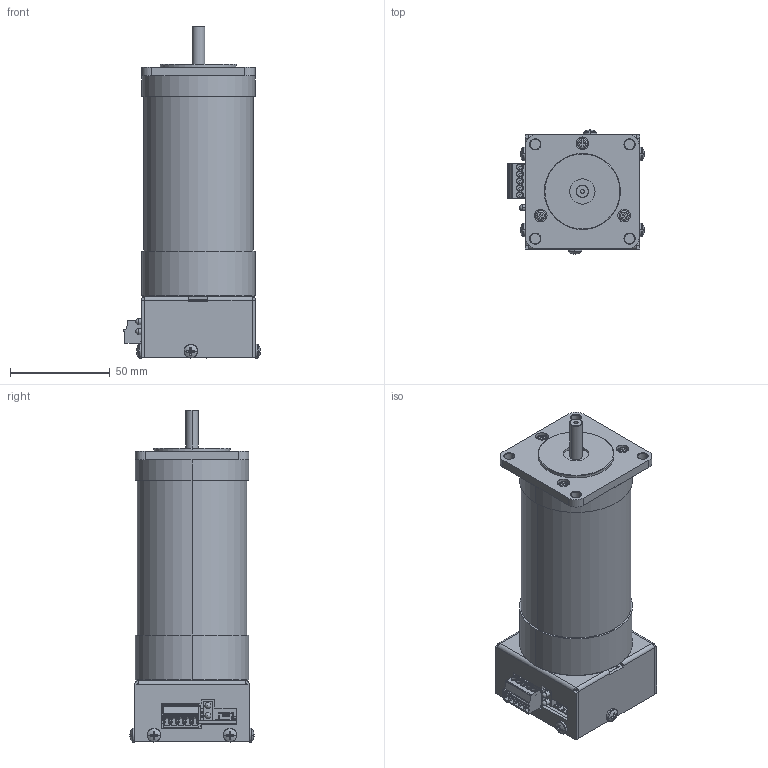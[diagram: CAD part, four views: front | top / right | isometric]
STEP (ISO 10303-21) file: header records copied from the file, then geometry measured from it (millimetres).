
FILE_DESCRIPTION (( 'STEP AP214' ), '1' );
FILE_NAME ('BLWS23MDCUSB5S-24V-4000.STEP', '2016-02-03T00:49:49', ( '' ), ( '' ), 'SwSTEP 2.0', 'SolidWorks 2016', '' );
FILE_SCHEMA (( 'AUTOMOTIVE_DESIGN' ));
Length unit declared in the file: inch
Products named in the file (21): SUB-AA6550-1; CON-UX60SC-MB-5ST80; UX60SC-MB-5ST; LED-0008; 1844249; TRS-IRFU3607PBF with 90degree bent UP legs; LED-T-1-Series_LED-T-1-GRN; LED-LTM Series_LED-LTM150; RES-3W-JAPSTYLE.25; CON-B5B-EH-A; CAP-0223; AA6550PCB; 55pan cross head_ai_CR-PHMS 0.138-32x0.25x0.25-S; Heat Sink, BLWS23MDCUSB Series; BLWR23MDAUSB Cover; 1840395; BLWS23-BLWR23 Series_BLWS23MDA5; 55pan cross head_ai_CR-PHMS 0.112-40x0.25x0.25-S; 55pan cross head_ai_CR-PHMS 0.112-40x0.3125x0.3125-S; BLWS23MDCUSB5S-24V-4000; TPE-661001001674-1.0X1.125
Assembly tree (32 placements, depth 4):
  BLWS23MDCUSB5S-24V-4000
    BLWS23-BLWR23 Series_BLWS23MDA5
    BLWR23MDAUSB Cover
    Heat Sink, BLWS23MDCUSB Series
    55pan cross head_ai_CR-PHMS 0.138-32x0.25x0.25-S  x6
    SUB-AA6550-1
      AA6550PCB
      CAP-0223
      CON-B5B-EH-A
      RES-3W-JAPSTYLE.25
      LED-LTM Series_LED-LTM150
      LED-T-1-Series_LED-T-1-GRN
      TRS-IRFU3607PBF with 90degree bent UP legs  x6
      1844249
      LED-0008
      CON-UX60SC-MB-5ST80
        UX60SC-MB-5ST
    TPE-661001001674-1.0X1.125
    55pan cross head_ai_CR-PHMS 0.112-40x0.3125x0.3125-S  x2
    55pan cross head_ai_CR-PHMS 0.112-40x0.25x0.25-S  x2
    1840395
Bounding box: 68.57 x 62.13 x 166.29 mm (x, y, z)
Volume: 325465.8 mm3; surface area: 71344.8 mm2
Topology: 30 solids, 30 shells, 3817 faces, 9997 edges, 6438 vertices
Faces by surface type: plane 2058, cylinder 852, cone 483, bspline 361, torus 40, sphere 23
Entity records: 145728 total; most frequent: CARTESIAN_POINT 36777, ORIENTED_EDGE 16078, DIRECTION 13886, EDGE_CURVE 8039, VECTOR 5392, LINE 5392, VERTEX_POINT 5214, AXIS2_PLACEMENT_3D 4247
